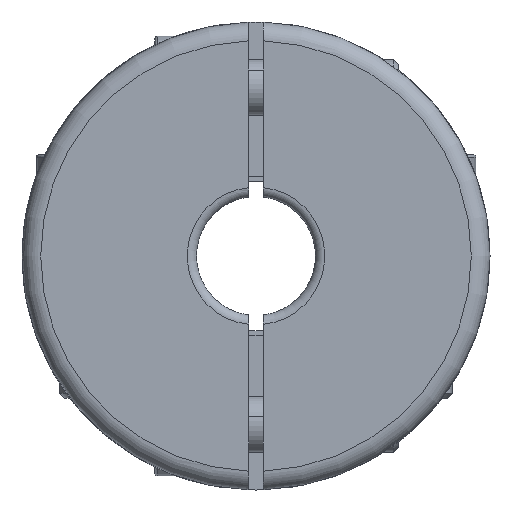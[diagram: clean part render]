
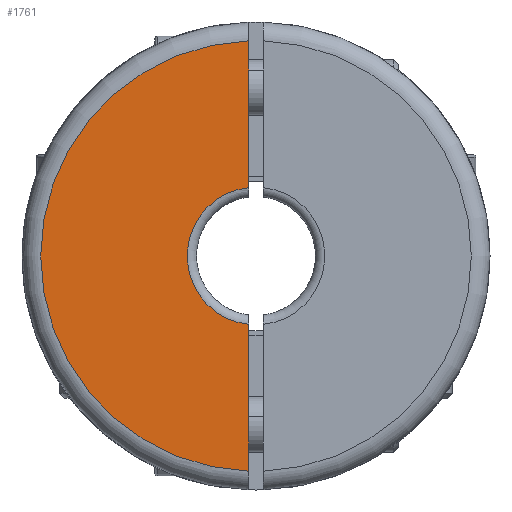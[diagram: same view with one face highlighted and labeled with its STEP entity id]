
A CAD part, left-side view. The second image highlights one B-rep face of the part: STEP entity #1761.
In plain terms, the highlighted planar face has unit normal (-1, 0, 0).
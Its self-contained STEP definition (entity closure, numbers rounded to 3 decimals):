
#637 = CARTESIAN_POINT ( 'NONE',  ( -15.5, 0.4, 11.493 ) ) ;
#666 = DIRECTION ( 'NONE',  ( 0., 0., -1. ) ) ;
#700 = EDGE_CURVE ( 'NONE', #5912, #1810, #6033, .T. ) ;
#786 = CARTESIAN_POINT ( 'NONE',  ( -15.5, 0.4, -3.653 ) ) ;
#839 = CARTESIAN_POINT ( 'NONE',  ( -15.5, 0.4, 12.494 ) ) ;
#885 = PLANE ( 'NONE',  #3126 ) ;
#946 = CARTESIAN_POINT ( 'NONE',  ( -15.5, 0., 0. ) ) ;
#992 = ORIENTED_EDGE ( 'NONE', *, *, #700, .T. ) ;
#1034 = CARTESIAN_POINT ( 'NONE',  ( -15.5, 0.4, 3.653 ) ) ;
#1057 = AXIS2_PLACEMENT_3D ( 'NONE', #5642, #2787, #6122 ) ;
#1364 = ORIENTED_EDGE ( 'NONE', *, *, #4648, .T. ) ;
#1376 = FACE_OUTER_BOUND ( 'NONE', #2767, .T. ) ;
#1428 = DIRECTION ( 'NONE',  ( 0., 0., -1. ) ) ;
#1606 = CARTESIAN_POINT ( 'NONE',  ( -15.5, 0.4, 12.494 ) ) ;
#1626 = CARTESIAN_POINT ( 'NONE',  ( -15.5, 0.4, -11.493 ) ) ;
#1761 = ADVANCED_FACE ( 'NONE', ( #1376 ), #885, .F. ) ;
#1810 = VERTEX_POINT ( 'NONE', #1034 ) ;
#1950 = ORIENTED_EDGE ( 'NONE', *, *, #3858, .T. ) ;
#2386 = EDGE_CURVE ( 'NONE', #1810, #6131, #5686, .T. ) ;
#2767 = EDGE_LOOP ( 'NONE', ( #5916, #1364, #1950, #992 ) ) ;
#2787 = DIRECTION ( 'NONE',  ( -1., 0., 0. ) ) ;
#2922 = VERTEX_POINT ( 'NONE', #1626 ) ;
#3126 = AXIS2_PLACEMENT_3D ( 'NONE', #946, #4272, #1428 ) ;
#3476 = CARTESIAN_POINT ( 'NONE',  ( -15.5, 0., 0. ) ) ;
#3858 = EDGE_CURVE ( 'NONE', #2922, #5912, #5398, .T. ) ;
#4127 = VECTOR ( 'NONE', #4943, 1000. ) ;
#4170 = CIRCLE ( 'NONE', #1057, 11.5 ) ;
#4208 = DIRECTION ( 'NONE',  ( 1., 0., 0. ) ) ;
#4272 = DIRECTION ( 'NONE',  ( 1., 0., 0. ) ) ;
#4648 = EDGE_CURVE ( 'NONE', #6131, #2922, #4170, .T. ) ;
#4943 = DIRECTION ( 'NONE',  ( 0., 0., 1. ) ) ;
#5105 = DIRECTION ( 'NONE',  ( 0., 0., 1. ) ) ;
#5398 = LINE ( 'NONE', #1606, #4127 ) ;
#5546 = VECTOR ( 'NONE', #5105, 1000. ) ;
#5642 = CARTESIAN_POINT ( 'NONE',  ( -15.5, 0., 0. ) ) ;
#5686 = LINE ( 'NONE', #839, #5546 ) ;
#5912 = VERTEX_POINT ( 'NONE', #786 ) ;
#5916 = ORIENTED_EDGE ( 'NONE', *, *, #2386, .T. ) ;
#6033 = CIRCLE ( 'NONE', #6048, 3.675 ) ;
#6048 = AXIS2_PLACEMENT_3D ( 'NONE', #3476, #4208, #666 ) ;
#6122 = DIRECTION ( 'NONE',  ( 0., 0., -1. ) ) ;
#6131 = VERTEX_POINT ( 'NONE', #637 ) ;
